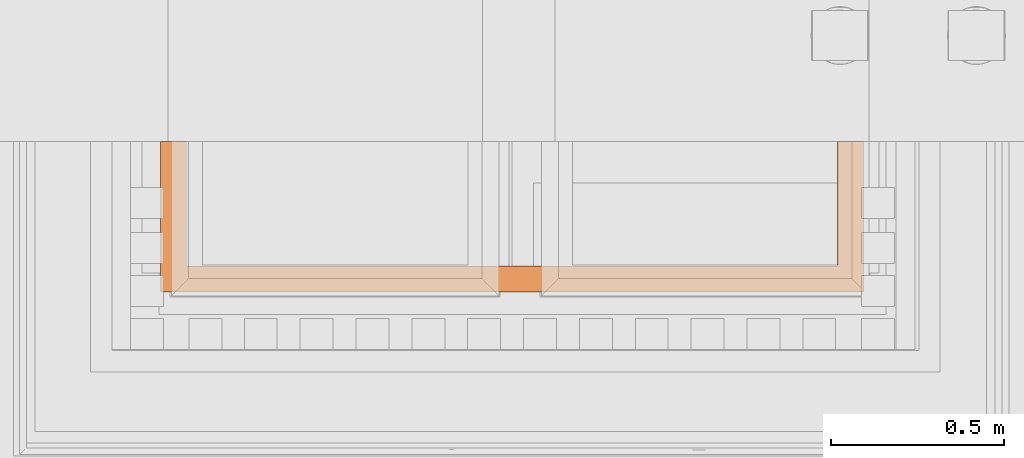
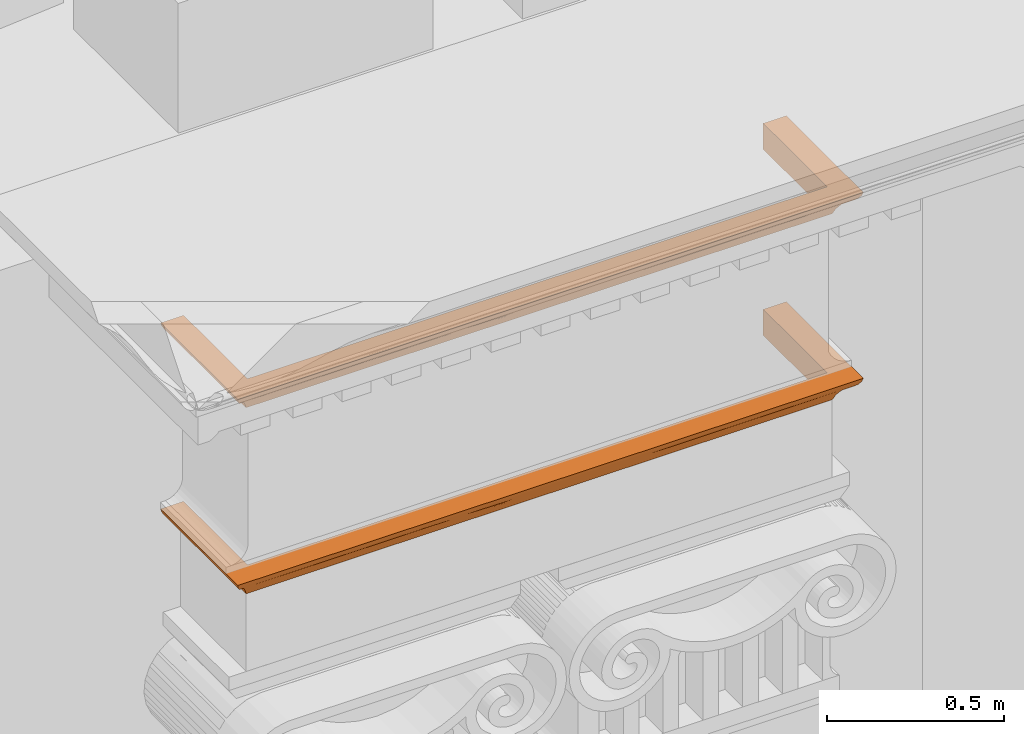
# One storey, part 24 of 44: 2 proxies.
"""IFC2X3 building model written with IfcOpenShell, lengths in metres."""

from ifc_helpers import new_model, entity, si_unit, converted_unit, derived_unit, direction, frame, origin, place, context, subcontext, project, spatial, faceted_brep, material, element, save


model = new_model("IFC2X3")

# Units and contexts
model_context = context("Model", 3, precision=1e-05, world=origin(), true_north=direction((6.12303176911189e-17, 1.0)))
body_context = subcontext(model_context, "Body", "Model", "MODEL_VIEW")
ifc_project = project(units=[si_unit("LENGTHUNIT", "METRE"), si_unit("AREAUNIT", "SQUARE_METRE"), si_unit("VOLUMEUNIT", "CUBIC_METRE"), converted_unit("PLANEANGLEUNIT", "DEGREE", entity("IfcRatioMeasure", 0.0174532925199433), si_unit("PLANEANGLEUNIT", "RADIAN"), dimensions=[0, 0, 0, 0, 0, 0, 0]), si_unit("MASSUNIT", "GRAM", prefix="KILO"), derived_unit("MASSDENSITYUNIT", [(si_unit("MASSUNIT", "GRAM", prefix="KILO"), 1), (si_unit("LENGTHUNIT", "METRE"), -3)]), si_unit("TIMEUNIT", "SECOND"), si_unit("FREQUENCYUNIT", "HERTZ"), si_unit("THERMODYNAMICTEMPERATUREUNIT", "DEGREE_CELSIUS"), derived_unit("THERMALTRANSMITTANCEUNIT", [(si_unit("MASSUNIT", "GRAM", prefix="KILO"), 1), (si_unit("THERMODYNAMICTEMPERATUREUNIT", "KELVIN"), -1), (si_unit("TIMEUNIT", "SECOND"), -3)]), derived_unit("VOLUMETRICFLOWRATEUNIT", [(si_unit("LENGTHUNIT", "METRE"), 3), (si_unit("TIMEUNIT", "SECOND"), -1)]), si_unit("ELECTRICCURRENTUNIT", "AMPERE"), si_unit("ELECTRICVOLTAGEUNIT", "VOLT"), si_unit("POWERUNIT", "WATT"), si_unit("FORCEUNIT", "NEWTON", prefix="KILO"), si_unit("ILLUMINANCEUNIT", "LUX"), si_unit("LUMINOUSFLUXUNIT", "LUMEN"), si_unit("LUMINOUSINTENSITYUNIT", "CANDELA"), derived_unit("USERDEFINED", [(si_unit("MASSUNIT", "GRAM", prefix="KILO"), -1), (si_unit("LENGTHUNIT", "METRE"), -2), (si_unit("TIMEUNIT", "SECOND"), 3), (si_unit("LUMINOUSFLUXUNIT", "LUMEN"), 1)]), derived_unit("LINEARVELOCITYUNIT", [(si_unit("LENGTHUNIT", "METRE"), 1), (si_unit("TIMEUNIT", "SECOND"), -1)]), si_unit("PRESSUREUNIT", "PASCAL"), derived_unit("USERDEFINED", [(si_unit("LENGTHUNIT", "METRE"), -2), (si_unit("MASSUNIT", "GRAM", prefix="KILO"), 1), (si_unit("TIMEUNIT", "SECOND"), -2)])], contexts=[model_context])

# Site, building, storey
site_placement = place(None, origin())
site = spatial("IfcSite", under=ifc_project, at=site_placement, Name="Default", CompositionType="ELEMENT")
building_placement = place(site_placement, origin())
building = spatial("IfcBuilding", under=site, at=building_placement, CompositionType="ELEMENT")
storey_placement = place(building_placement, origin())
storey = spatial("IfcBuildingStorey", under=building, at=storey_placement, Name="Livello 1", CompositionType="ELEMENT", Elevation=0.0)

# Proxies
ifc_material = material(Name="Piperno")
proxy_1_placement = place(storey_placement, frame((-11.5360839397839, 0.826731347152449, 21.9381595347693)))
element("IfcBuildingElementProxy", 1, at=proxy_1_placement, inside=storey, material=ifc_material, Name="Stratigrafia", context=body_context, shape_type="Brep", body=[
    faceted_brep([(1.962612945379, 0.436641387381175, 0.0912885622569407), (2.037612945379, 0.436641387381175, 0.0912885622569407), (2.03387347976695, 0.436641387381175, 0.0791148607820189), (2.02722756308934, 0.436641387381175, 0.0682514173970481), (2.01809170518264, 0.436641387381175, 0.0593790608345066), (2.007038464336, 0.436641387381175, 0.0530538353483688), (1.99242845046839, 0.436641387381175, 0.038323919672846), (1.98112304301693, 0.436641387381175, 0.020928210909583), (1.97359573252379, 0.436641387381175, 0.0015952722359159), (1.962612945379, 0.436641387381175, 0.0015952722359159), (0.0467797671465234, 0.436641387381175, 0.038323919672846), (0.0321697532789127, 0.436641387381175, 0.0530538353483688), (0.0211165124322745, 0.436641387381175, 0.0593790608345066), (0.0119806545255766, 0.436641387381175, 0.0682514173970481), (0.00533473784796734, 0.436641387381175, 0.0791148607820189), (0.00159527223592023, 0.436641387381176, 0.0912885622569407), (0.0765952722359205, 0.436641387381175, 0.0912885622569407), (0.0765952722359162, 0.436641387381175, 0.0015952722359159), (0.0656124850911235, 0.436641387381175, 0.0015952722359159), (0.0580851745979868, 0.436641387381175, 0.020928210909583), (2.007038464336, 0.207952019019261, 0.0530538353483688), (2.007038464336, 0.187600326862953, 0.0530538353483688), (2.007038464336, 0.032169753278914, 0.0530538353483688), (1.99242845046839, 0.0467797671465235, 0.038323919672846), (1.98112304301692, 0.0580851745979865, 0.020928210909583), (1.97359573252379, 0.0656124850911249, 0.0015952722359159), (1.62202667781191, 0.0656124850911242, 0.0015952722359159), (1.27046453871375, 0.0656124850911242, 0.0015952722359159), (1.0196006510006, 0.0656124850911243, 0.0015952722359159), (0.768736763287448, 0.0656124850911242, 0.0015952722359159), (0.417174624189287, 0.0656124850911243, 0.0015952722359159), (0.0656124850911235, 0.0656124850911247, 0.0015952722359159), (0.0765952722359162, 0.0765952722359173, 0.0015952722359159), (1.96261294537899, 0.0765952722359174, 0.0015952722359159), (1.962612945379, 0.0765952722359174, 0.0912885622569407), (0.00159527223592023, 0.250636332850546, 0.0912885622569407), (0.00159527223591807, 0.0015952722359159, 0.0912885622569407), (0.250633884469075, 0.0015952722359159, 0.0912885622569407), (0.499675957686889, 0.0015952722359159, 0.0912885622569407), (0.759640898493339, 0.0015952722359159, 0.0912885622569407), (1.01960237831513, 0.0015952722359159, 0.0912885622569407), (1.27956731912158, 0.0015952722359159, 0.0912885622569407), (1.53953225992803, 0.0015952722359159, 0.0912885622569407), (1.78857087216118, 0.0015952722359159, 0.0912885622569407), (2.037612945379, 0.00159527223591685, 0.0912885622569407), (2.03761294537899, 0.250636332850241, 0.0912885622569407), (0.0765952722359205, 0.0765952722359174, 0.0912885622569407), (2.03387347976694, 0.00533473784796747, 0.0791148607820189), (2.03089181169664, 0.224311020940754, 0.0734743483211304), (2.0350515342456, 0.266552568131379, 0.0819540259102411), (2.01809170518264, 0.0211165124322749, 0.0593790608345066), (2.01517555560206, 0.262980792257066, 0.0573396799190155), (2.02293837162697, 0.232788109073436, 0.0635282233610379), (2.02722756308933, 0.0119806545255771, 0.0682514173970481), (0.0467797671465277, 0.0467797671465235, 0.038323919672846), (0.0580851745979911, 0.0580851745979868, 0.020928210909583), (0.367866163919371, 0.0521366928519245, 0.0310412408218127), (1.67134205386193, 0.0521366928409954, 0.031041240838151), (0.383732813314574, 0.032169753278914, 0.0530538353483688), (1.65547540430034, 0.032169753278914, 0.0530538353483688), (1.45159991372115, 0.0460051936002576, 0.0392723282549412), (0.592959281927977, 0.0590390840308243, 0.019018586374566), (1.17857156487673, 0.0493254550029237, 0.0350321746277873), (1.33754250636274, 0.032169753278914, 0.0530538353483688), (1.26864147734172, 0.032169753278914, 0.0530538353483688), (1.02833349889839, 0.032169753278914, 0.0530538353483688), (1.01960410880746, 0.032169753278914, 0.0530538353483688), (0.860636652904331, 0.0522964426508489, 0.0308017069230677), (0.779291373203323, 0.032169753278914, 0.0530538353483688), (0.701665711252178, 0.032169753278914, 0.0530538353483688), (1.75799633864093, 0.032169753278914, 0.0530538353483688), (0.28121187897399, 0.032169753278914, 0.0530538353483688), (0.032169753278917, 0.032169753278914, 0.0530538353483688), (0.604066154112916, 0.0469191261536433, 0.0381507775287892), (0.530254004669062, 0.032169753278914, 0.0530538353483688), (1.42275632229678, 0.0580212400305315, 0.021052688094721), (1.14503538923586, 0.0596767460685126, 0.0176830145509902), (1.50895421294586, 0.032169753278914, 0.0530538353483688), (0.546115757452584, 0.0041686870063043, 0.081922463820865), (0.375156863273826, 0.00622593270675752, 0.0772409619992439), (0.585577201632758, 0.00852306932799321, 0.0731394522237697), (1.85863883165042, 0.00817935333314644, 0.0736996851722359), (0.180569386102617, 0.00817935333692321, 0.0736996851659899), (0.195154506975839, 0.0146448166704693, 0.065179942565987), (0.391043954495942, 0.0157075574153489, 0.0640828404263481), (0.267640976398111, 0.0224796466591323, 0.0583878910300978), (1.77156724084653, 0.0224796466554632, 0.058387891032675), (0.00533473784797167, 0.00533473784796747, 0.0791148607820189), (0.0119806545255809, 0.0119806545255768, 0.0682514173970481), (1.59272306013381, 0.0227911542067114, 0.058170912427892), (1.66405135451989, 0.00622593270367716, 0.0772409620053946), (0.960630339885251, 0.00510136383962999, 0.0796404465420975), (1.24637643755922, 0.00976144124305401, 0.0712452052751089), (1.4095491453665, 0.00485209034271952, 0.0802202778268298), (1.1986408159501, 0.00449195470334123, 0.0810951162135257), (0.915845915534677, 0.0196818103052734, 0.0604998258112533), (0.809439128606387, 0.00973445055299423, 0.0712845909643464), (0.639048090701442, 0.0160075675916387, 0.0637847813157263), (1.84405371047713, 0.0146448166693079, 0.0651799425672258), (1.47132453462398, 0.0106901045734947, 0.0699361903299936), (1.43760442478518, 0.0189403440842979, 0.0611124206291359), (0.729067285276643, 0.00473336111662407, 0.0805036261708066), (0.173994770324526, 0.00391099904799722, 0.0826144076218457), (0.463092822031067, 0.0233546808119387, 0.0577870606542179), (1.02783945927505, 0.010817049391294, 0.0697638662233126), (1.21750503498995, 0.0210338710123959, 0.0594414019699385), (1.86521344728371, 0.00391099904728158, 0.0826144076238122), (1.64816426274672, 0.0157075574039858, 0.0640828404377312), (0.661373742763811, 0.0244211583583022, 0.0570902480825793), (0.0211165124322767, 0.0211165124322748, 0.0593790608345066), (0.032169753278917, 0.187600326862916, 0.0530538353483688), (0.032169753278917, 0.207952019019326, 0.0530538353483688), (0.0083164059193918, 0.22431102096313, 0.0734743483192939), (0.00403364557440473, 0.180264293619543, 0.0822812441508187), (0.0236134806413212, 0.19090797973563, 0.0576144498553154), (0.0162698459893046, 0.232788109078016, 0.0635282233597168)], [[[0, 1, 2, 3, 4, 5, 6, 7, 8, 9]], [[10, 11, 12, 13, 14, 15, 16, 17, 18, 19]], [[6, 5, 20, 21, 22, 23]], [[23, 24, 7, 6]], [[25, 8, 7, 24]], [[9, 8, 25, 26, 27, 28, 29, 30, 31, 18, 17, 32, 33]], [[0, 9, 33, 34]], [[16, 15, 35, 36, 37, 38, 39, 40, 41, 42, 43, 44, 45, 1, 0, 34, 46]], [[47, 48, 49]], [[50, 51, 52]], [[49, 48, 2]], [[45, 44, 49, 1]], [[44, 47, 49]], [[52, 53, 50]], [[2, 48, 3]], [[51, 21, 20, 5]], [[3, 48, 52]], [[1, 49, 2]], [[21, 51, 50]], [[5, 4, 51]], [[50, 22, 21]], [[53, 52, 48]], [[52, 51, 4]], [[52, 4, 3]], [[47, 53, 48]], [[54, 55, 56]], [[26, 25, 24]], [[30, 55, 31]], [[57, 24, 23]], [[58, 54, 56]], [[23, 59, 57]], [[59, 60, 57]], [[61, 56, 30]], [[62, 63, 64, 65, 66]], [[67, 66, 68, 69]], [[67, 62, 66]], [[23, 22, 70, 59]], [[54, 58, 71, 72]], [[73, 69, 74, 58]], [[56, 55, 30]], [[57, 26, 24]], [[27, 26, 75]], [[27, 76, 28]], [[67, 73, 61]], [[30, 29, 61]], [[76, 27, 75]], [[57, 60, 75]], [[62, 67, 76]], [[28, 76, 67]], [[28, 67, 29]], [[62, 60, 63]], [[76, 75, 62]], [[57, 75, 26]], [[75, 60, 62]], [[60, 59, 77, 63]], [[56, 61, 73]], [[61, 29, 67]], [[56, 73, 58]], [[69, 73, 67]], [[34, 33, 32, 46]], [[78, 79, 80]], [[53, 47, 81]], [[82, 83, 84]], [[72, 71, 85]], [[86, 70, 22]], [[87, 88, 82]], [[70, 86, 89]], [[38, 37, 79]], [[42, 90, 43]], [[91, 40, 39]], [[92, 93, 94]], [[95, 96, 97]], [[86, 50, 98]], [[53, 81, 98]], [[93, 99, 90]], [[92, 100, 99]], [[101, 80, 96]], [[82, 102, 87]], [[85, 84, 83]], [[84, 79, 82]], [[36, 87, 102]], [[97, 80, 84]], [[103, 84, 85]], [[92, 104, 105]], [[81, 106, 90]], [[44, 43, 106]], [[36, 102, 37]], [[98, 81, 107]], [[99, 93, 92]], [[108, 74, 69, 68]], [[82, 88, 83]], [[71, 103, 85]], [[50, 86, 22]], [[102, 79, 37]], [[88, 109, 83]], [[109, 72, 85]], [[109, 85, 83]], [[103, 71, 58, 74]], [[97, 96, 80]], [[103, 97, 84]], [[94, 104, 92]], [[103, 108, 97]], [[95, 68, 66, 65]], [[95, 97, 108]], [[95, 65, 105]], [[100, 64, 63, 77]], [[99, 100, 107]], [[39, 101, 91]], [[84, 80, 79]], [[101, 96, 91]], [[80, 101, 78]], [[78, 39, 38]], [[104, 91, 96]], [[41, 94, 93]], [[41, 93, 42]], [[91, 94, 40]], [[90, 42, 93]], [[96, 95, 104]], [[105, 104, 95]], [[100, 92, 105]], [[90, 99, 107]], [[100, 105, 64]], [[107, 89, 86]], [[106, 81, 47]], [[107, 81, 90]], [[86, 98, 107]], [[50, 53, 98]], [[107, 100, 89]], [[39, 78, 101]], [[79, 78, 38]], [[79, 102, 82]], [[44, 106, 47]], [[90, 106, 43]], [[100, 77, 89]], [[89, 77, 59, 70]], [[40, 94, 41]], [[104, 94, 91]], [[74, 108, 103]], [[95, 108, 68]], [[105, 65, 64]], [[54, 72, 110, 111, 11, 10]], [[10, 19, 55, 54]], [[19, 18, 31, 55]], [[46, 32, 17, 16]], [[14, 112, 113]], [[12, 114, 115]], [[35, 15, 14]], [[36, 35, 113]], [[13, 12, 115]], [[14, 13, 112]], [[112, 87, 113]], [[72, 114, 11, 111, 110]], [[114, 72, 109]], [[112, 13, 115]], [[36, 113, 87]], [[114, 12, 11]], [[88, 112, 115]], [[88, 115, 109]], [[109, 115, 114]], [[14, 113, 35]], [[87, 112, 88]]]),
])
proxy_2_placement = place(storey_placement, frame((-11.5360839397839, 0.826731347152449, 22.5781595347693)))
element("IfcBuildingElementProxy", 2, at=proxy_2_placement, inside=storey, material=ifc_material, Name="Stratigrafia", context=body_context, shape_type="Brep", body=[
    faceted_brep([(1.962612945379, 0.436641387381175, 0.0912885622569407), (2.037612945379, 0.436641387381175, 0.0912885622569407), (2.03387347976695, 0.436641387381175, 0.0791148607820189), (2.02722756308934, 0.436641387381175, 0.0682514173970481), (2.01809170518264, 0.436641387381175, 0.0593790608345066), (2.007038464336, 0.436641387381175, 0.0530538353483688), (1.99242845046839, 0.436641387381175, 0.038323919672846), (1.98112304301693, 0.436641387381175, 0.020928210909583), (1.97359573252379, 0.436641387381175, 0.0015952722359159), (1.962612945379, 0.436641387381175, 0.0015952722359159), (0.0467797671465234, 0.436641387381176, 0.038323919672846), (0.0321697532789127, 0.436641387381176, 0.0530538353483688), (0.0211165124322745, 0.436641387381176, 0.0593790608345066), (0.0119806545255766, 0.436641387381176, 0.0682514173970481), (0.00533473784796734, 0.436641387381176, 0.0791148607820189), (0.00159527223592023, 0.436641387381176, 0.0912885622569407), (0.0765952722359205, 0.436641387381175, 0.0912885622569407), (0.0765952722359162, 0.436641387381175, 0.0015952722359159), (0.0656124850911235, 0.436641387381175, 0.0015952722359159), (0.0580851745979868, 0.436641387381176, 0.020928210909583), (2.007038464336, 0.207952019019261, 0.0530538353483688), (2.007038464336, 0.187600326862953, 0.0530538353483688), (2.007038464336, 0.032169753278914, 0.0530538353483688), (1.99242845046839, 0.0467797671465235, 0.038323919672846), (1.98112304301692, 0.0580851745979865, 0.020928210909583), (1.97359573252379, 0.0656124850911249, 0.0015952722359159), (1.62202667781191, 0.0656124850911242, 0.0015952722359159), (1.27046453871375, 0.0656124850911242, 0.0015952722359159), (1.0196006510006, 0.0656124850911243, 0.0015952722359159), (0.768736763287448, 0.0656124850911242, 0.0015952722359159), (0.417174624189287, 0.0656124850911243, 0.0015952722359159), (0.0656124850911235, 0.0656124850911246, 0.0015952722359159), (0.0765952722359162, 0.0765952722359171, 0.0015952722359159), (1.96261294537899, 0.0765952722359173, 0.0015952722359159), (1.962612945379, 0.0765952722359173, 0.0912885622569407), (0.00159527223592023, 0.250636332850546, 0.0912885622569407), (0.00159527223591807, 0.0015952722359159, 0.0912885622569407), (0.250633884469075, 0.0015952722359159, 0.0912885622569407), (0.499675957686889, 0.0015952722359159, 0.0912885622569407), (0.759640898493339, 0.0015952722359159, 0.0912885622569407), (1.01960237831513, 0.0015952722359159, 0.0912885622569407), (1.27956731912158, 0.0015952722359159, 0.0912885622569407), (1.53953225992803, 0.0015952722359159, 0.0912885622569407), (1.78857087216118, 0.0015952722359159, 0.0912885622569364), (2.037612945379, 0.00159527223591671, 0.0912885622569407), (2.037612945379, 0.250636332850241, 0.0912885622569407), (0.0765952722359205, 0.0765952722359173, 0.0912885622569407), (2.03387347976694, 0.00533473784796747, 0.0791148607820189), (2.03089181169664, 0.224311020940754, 0.0734743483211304), (2.0350515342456, 0.266552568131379, 0.0819540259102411), (2.01809170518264, 0.0211165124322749, 0.0593790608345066), (2.01517555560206, 0.262980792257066, 0.0573396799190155), (2.02293837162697, 0.232788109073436, 0.0635282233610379), (2.02722756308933, 0.0119806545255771, 0.0682514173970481), (0.0467797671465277, 0.0467797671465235, 0.038323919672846), (0.0580851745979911, 0.0580851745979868, 0.020928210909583), (0.367866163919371, 0.0521366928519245, 0.0310412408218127), (1.67134205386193, 0.0521366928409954, 0.031041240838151), (0.383732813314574, 0.032169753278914, 0.0530538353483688), (1.65547540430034, 0.032169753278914, 0.0530538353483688), (1.45159991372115, 0.0460051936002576, 0.0392723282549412), (0.592959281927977, 0.0590390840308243, 0.019018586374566), (1.17857156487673, 0.0493254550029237, 0.0350321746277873), (1.33754250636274, 0.032169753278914, 0.0530538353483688), (1.26864147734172, 0.032169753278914, 0.0530538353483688), (1.02833349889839, 0.032169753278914, 0.0530538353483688), (1.01960410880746, 0.032169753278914, 0.0530538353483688), (0.860636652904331, 0.0522964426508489, 0.0308017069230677), (0.779291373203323, 0.032169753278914, 0.0530538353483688), (0.701665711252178, 0.032169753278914, 0.0530538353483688), (1.75799633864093, 0.032169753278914, 0.0530538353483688), (0.28121187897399, 0.032169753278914, 0.0530538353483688), (0.032169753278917, 0.032169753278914, 0.0530538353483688), (0.604066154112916, 0.0469191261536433, 0.0381507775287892), (0.530254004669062, 0.032169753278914, 0.0530538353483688), (1.42275632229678, 0.0580212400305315, 0.021052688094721), (1.14503538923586, 0.0596767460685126, 0.0176830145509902), (1.50895421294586, 0.032169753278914, 0.0530538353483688), (0.546115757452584, 0.0041686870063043, 0.081922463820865), (0.375156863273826, 0.00622593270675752, 0.0772409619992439), (0.585577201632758, 0.00852306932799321, 0.0731394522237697), (1.85863883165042, 0.00817935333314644, 0.0736996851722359), (0.180569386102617, 0.00817935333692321, 0.0736996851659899), (0.195154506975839, 0.0146448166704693, 0.065179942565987), (0.391043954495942, 0.0157075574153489, 0.0640828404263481), (0.267640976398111, 0.0224796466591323, 0.0583878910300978), (1.77156724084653, 0.0224796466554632, 0.058387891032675), (0.00533473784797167, 0.00533473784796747, 0.0791148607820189), (0.0119806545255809, 0.0119806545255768, 0.0682514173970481), (1.59272306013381, 0.0227911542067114, 0.058170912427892), (1.66405135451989, 0.00622593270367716, 0.0772409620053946), (0.960630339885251, 0.00510136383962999, 0.0796404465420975), (1.24637643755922, 0.00976144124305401, 0.0712452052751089), (1.4095491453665, 0.00485209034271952, 0.0802202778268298), (1.1986408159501, 0.00449195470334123, 0.0810951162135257), (0.915845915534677, 0.0196818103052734, 0.0604998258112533), (0.809439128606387, 0.00973445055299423, 0.0712845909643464), (0.639048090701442, 0.0160075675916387, 0.0637847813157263), (1.84405371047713, 0.0146448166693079, 0.0651799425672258), (1.47132453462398, 0.0106901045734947, 0.0699361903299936), (1.43760442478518, 0.0189403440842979, 0.0611124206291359), (0.729067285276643, 0.00473336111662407, 0.0805036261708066), (0.173994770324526, 0.00391099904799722, 0.0826144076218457), (0.463092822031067, 0.0233546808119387, 0.0577870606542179), (1.02783945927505, 0.010817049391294, 0.0697638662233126), (1.21750503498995, 0.0210338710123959, 0.0594414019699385), (1.86521344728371, 0.00391099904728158, 0.0826144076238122), (1.64816426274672, 0.0157075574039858, 0.0640828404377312), (0.661373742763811, 0.0244211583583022, 0.0570902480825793), (0.0211165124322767, 0.0211165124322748, 0.0593790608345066), (0.032169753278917, 0.187600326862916, 0.0530538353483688), (0.032169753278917, 0.207952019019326, 0.0530538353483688), (0.0083164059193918, 0.22431102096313, 0.0734743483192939), (0.00403364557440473, 0.180264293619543, 0.0822812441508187), (0.0236134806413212, 0.19090797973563, 0.0576144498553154), (0.0162698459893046, 0.232788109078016, 0.0635282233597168)], [[[0, 1, 2, 3, 4, 5, 6, 7, 8, 9]], [[10, 11, 12, 13, 14, 15, 16, 17, 18, 19]], [[6, 5, 20, 21, 22, 23]], [[23, 24, 7, 6]], [[25, 8, 7, 24]], [[9, 8, 25, 26, 27, 28, 29, 30, 31, 18, 17, 32, 33]], [[0, 9, 33, 34]], [[16, 15, 35, 36, 37, 38, 39, 40, 41, 42, 43, 44, 45, 1, 0, 34, 46]], [[47, 48, 49]], [[50, 51, 52]], [[49, 48, 2]], [[45, 44, 49, 1]], [[44, 47, 49]], [[52, 53, 50]], [[2, 48, 3]], [[51, 21, 20, 5]], [[3, 48, 52]], [[1, 49, 2]], [[21, 51, 50]], [[5, 4, 51]], [[50, 22, 21]], [[53, 52, 48]], [[52, 51, 4]], [[52, 4, 3]], [[47, 53, 48]], [[54, 55, 56]], [[26, 25, 24]], [[30, 55, 31]], [[57, 24, 23]], [[58, 54, 56]], [[23, 59, 57]], [[59, 60, 57]], [[61, 56, 30]], [[62, 63, 64, 65, 66]], [[67, 66, 68, 69]], [[67, 62, 66]], [[23, 22, 70, 59]], [[54, 58, 71, 72]], [[73, 69, 74, 58]], [[56, 55, 30]], [[57, 26, 24]], [[27, 26, 75]], [[27, 76, 28]], [[67, 73, 61]], [[30, 29, 61]], [[76, 27, 75]], [[57, 60, 75]], [[62, 67, 76]], [[28, 76, 67]], [[28, 67, 29]], [[62, 60, 63]], [[76, 75, 62]], [[57, 75, 26]], [[75, 60, 62]], [[60, 59, 77, 63]], [[56, 61, 73]], [[61, 29, 67]], [[56, 73, 58]], [[69, 73, 67]], [[34, 33, 32, 46]], [[78, 79, 80]], [[53, 47, 81]], [[82, 83, 84]], [[72, 71, 85]], [[86, 70, 22]], [[87, 88, 82]], [[70, 86, 89]], [[38, 37, 79]], [[42, 90, 43]], [[91, 40, 39]], [[92, 93, 94]], [[95, 96, 97]], [[86, 50, 98]], [[53, 81, 98]], [[93, 99, 90]], [[92, 100, 99]], [[101, 80, 96]], [[82, 102, 87]], [[85, 84, 83]], [[84, 79, 82]], [[36, 87, 102]], [[97, 80, 84]], [[103, 84, 85]], [[92, 104, 105]], [[81, 106, 90]], [[44, 43, 106]], [[36, 102, 37]], [[98, 81, 107]], [[99, 93, 92]], [[108, 74, 69, 68]], [[82, 88, 83]], [[71, 103, 85]], [[50, 86, 22]], [[102, 79, 37]], [[88, 109, 83]], [[109, 72, 85]], [[109, 85, 83]], [[103, 71, 58, 74]], [[97, 96, 80]], [[103, 97, 84]], [[94, 104, 92]], [[103, 108, 97]], [[95, 68, 66, 65]], [[95, 97, 108]], [[95, 65, 105]], [[100, 64, 63, 77]], [[99, 100, 107]], [[39, 101, 91]], [[84, 80, 79]], [[101, 96, 91]], [[80, 101, 78]], [[78, 39, 38]], [[104, 91, 96]], [[41, 94, 93]], [[41, 93, 42]], [[91, 94, 40]], [[90, 42, 93]], [[96, 95, 104]], [[105, 104, 95]], [[100, 92, 105]], [[90, 99, 107]], [[100, 105, 64]], [[107, 89, 86]], [[106, 81, 47]], [[107, 81, 90]], [[86, 98, 107]], [[50, 53, 98]], [[107, 100, 89]], [[39, 78, 101]], [[79, 78, 38]], [[79, 102, 82]], [[44, 106, 47]], [[90, 106, 43]], [[100, 77, 89]], [[89, 77, 59, 70]], [[40, 94, 41]], [[104, 94, 91]], [[74, 108, 103]], [[95, 108, 68]], [[105, 65, 64]], [[54, 72, 110, 111, 11, 10]], [[10, 19, 55, 54]], [[19, 18, 31, 55]], [[46, 32, 17, 16]], [[14, 112, 113]], [[12, 114, 115]], [[35, 15, 14]], [[36, 35, 113]], [[13, 12, 115]], [[14, 13, 112]], [[112, 87, 113]], [[72, 114, 11, 111, 110]], [[114, 72, 109]], [[112, 13, 115]], [[36, 113, 87]], [[114, 12, 11]], [[88, 112, 115]], [[88, 115, 109]], [[109, 115, 114]], [[14, 113, 35]], [[87, 112, 88]]]),
])

save(model, "model.ifc")
